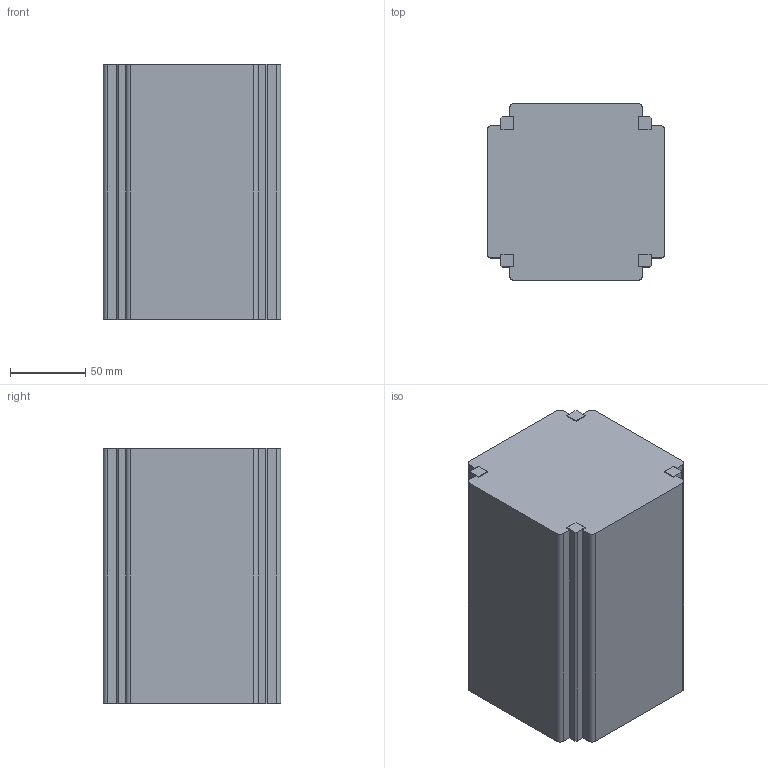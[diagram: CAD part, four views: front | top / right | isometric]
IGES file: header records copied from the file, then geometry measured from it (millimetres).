
Start section:  PTC IGES file: C:\Users\gleb\z) Windows folders\Desktop\1) ISIPOD Fligh t Model\4) CubeSat_Dims\140923_RevB_1.5U_CubeSat_ISIS_Advised_Max _Dimen sions.igs
Global section: file name: C:\Users\gleb\z) Windows folders\Desktop\1) ISIPOD Flight Model\4) CubeSat_Dims\140923_RevB_1.5U_CubeSat_ISIS_Advised_Max _Dimensions.igs; native system: gleb by Parametric Technology Corporation; preprocessor: 2003250; author: Unknown; organization: PTC; date: 140923.102847; units: millimetre
Bounding box: 118 x 118 x 170.25 mm (x, y, z)
Volume: 2226017.4 mm3; surface area: 104180.8 mm2
Topology: 1 solids, 1 shells, 58 faces, 168 edges, 112 vertices
Faces by surface type: bspline 50, revolution 8
